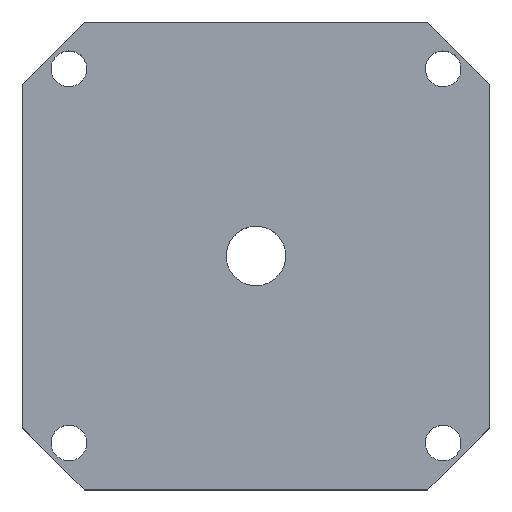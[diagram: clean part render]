
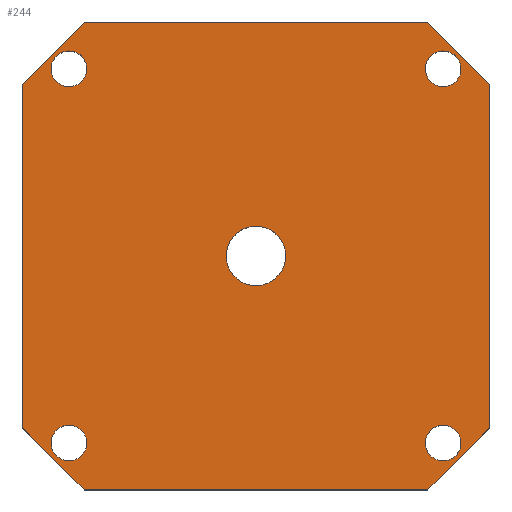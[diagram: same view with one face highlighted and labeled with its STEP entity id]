
A CAD part, top view. The second image highlights one B-rep face of the part: STEP entity #244.
In plain terms, the highlighted planar face has unit normal (0, 0, 1).
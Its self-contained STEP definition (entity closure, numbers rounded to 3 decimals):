
#63=CARTESIAN_POINT('Vertex',(-2.922,1.593,10.)) ;
#77=CARTESIAN_POINT('Vertex',(2.912,-1.593,10.)) ;
#80=CARTESIAN_POINT('Axis2P3D Location',(-0.005,0.,10.)) ;
#92=CARTESIAN_POINT('Axis2P3D Location',(0.,0.,10.)) ;
#97=CARTESIAN_POINT('Line Origine',(-22.681,22.685,10.)) ;
#101=CARTESIAN_POINT('Vertex',(-19.211,26.155,10.)) ;
#103=CARTESIAN_POINT('Vertex',(-26.15,19.216,10.)) ;
#106=CARTESIAN_POINT('Line Origine',(-26.15,-0.005,10.)) ;
#110=CARTESIAN_POINT('Vertex',(-26.15,-19.226,10.)) ;
#113=CARTESIAN_POINT('Line Origine',(-22.686,-22.69,10.)) ;
#117=CARTESIAN_POINT('Vertex',(-19.221,-26.155,10.)) ;
#120=CARTESIAN_POINT('Line Origine',(0.,-26.155,10.)) ;
#124=CARTESIAN_POINT('Vertex',(19.221,-26.155,10.)) ;
#127=CARTESIAN_POINT('Line Origine',(22.686,-22.69,10.)) ;
#131=CARTESIAN_POINT('Vertex',(26.15,-19.226,10.)) ;
#134=CARTESIAN_POINT('Line Origine',(26.15,-0.005,10.)) ;
#138=CARTESIAN_POINT('Vertex',(26.15,19.216,10.)) ;
#141=CARTESIAN_POINT('Line Origine',(22.681,22.685,10.)) ;
#145=CARTESIAN_POINT('Vertex',(19.211,26.155,10.)) ;
#148=CARTESIAN_POINT('Line Origine',(0.,26.155,10.)) ;
#163=CARTESIAN_POINT('Axis2P3D Location',(-0.005,0.,10.)) ;
#172=CARTESIAN_POINT('Axis2P3D Location',(-20.915,20.915,10.)) ;
#176=CARTESIAN_POINT('Vertex',(-22.67,21.874,10.)) ;
#178=CARTESIAN_POINT('Vertex',(-19.16,19.956,10.)) ;
#181=CARTESIAN_POINT('Axis2P3D Location',(-20.915,20.915,10.)) ;
#190=CARTESIAN_POINT('Axis2P3D Location',(-20.915,-20.921,10.)) ;
#194=CARTESIAN_POINT('Vertex',(-19.16,-21.88,10.)) ;
#196=CARTESIAN_POINT('Vertex',(-22.67,-19.962,10.)) ;
#199=CARTESIAN_POINT('Axis2P3D Location',(-20.915,-20.921,10.)) ;
#208=CARTESIAN_POINT('Axis2P3D Location',(20.921,20.915,10.)) ;
#212=CARTESIAN_POINT('Vertex',(22.676,19.956,10.)) ;
#214=CARTESIAN_POINT('Vertex',(19.166,21.874,10.)) ;
#217=CARTESIAN_POINT('Axis2P3D Location',(20.921,20.915,10.)) ;
#226=CARTESIAN_POINT('Axis2P3D Location',(20.921,-20.921,10.)) ;
#230=CARTESIAN_POINT('Vertex',(22.676,-21.88,10.)) ;
#232=CARTESIAN_POINT('Vertex',(19.166,-19.962,10.)) ;
#235=CARTESIAN_POINT('Axis2P3D Location',(20.921,-20.921,10.)) ;
#81=DIRECTION('Axis2P3D Direction',(0.,-0.,-1.)) ;
#93=DIRECTION('Axis2P3D Direction',(0.,0.,1.)) ;
#94=DIRECTION('Axis2P3D XDirection',(1.,0.,0.)) ;
#98=DIRECTION('Vector Direction',(0.707,0.707,0.)) ;
#107=DIRECTION('Vector Direction',(0.,1.,0.)) ;
#114=DIRECTION('Vector Direction',(-0.707,0.707,0.)) ;
#121=DIRECTION('Vector Direction',(-1.,0.,0.)) ;
#128=DIRECTION('Vector Direction',(-0.707,-0.707,0.)) ;
#135=DIRECTION('Vector Direction',(0.,-1.,0.)) ;
#142=DIRECTION('Vector Direction',(0.707,-0.707,0.)) ;
#149=DIRECTION('Vector Direction',(1.,0.,0.)) ;
#164=DIRECTION('Axis2P3D Direction',(0.,0.,1.)) ;
#173=DIRECTION('Axis2P3D Direction',(0.,0.,1.)) ;
#182=DIRECTION('Axis2P3D Direction',(0.,0.,1.)) ;
#191=DIRECTION('Axis2P3D Direction',(0.,0.,1.)) ;
#200=DIRECTION('Axis2P3D Direction',(0.,0.,1.)) ;
#209=DIRECTION('Axis2P3D Direction',(0.,0.,1.)) ;
#218=DIRECTION('Axis2P3D Direction',(0.,0.,1.)) ;
#227=DIRECTION('Axis2P3D Direction',(0.,0.,1.)) ;
#236=DIRECTION('Axis2P3D Direction',(0.,0.,1.)) ;
#82=AXIS2_PLACEMENT_3D('Circle Axis2P3D',#80,#81,$) ;
#95=AXIS2_PLACEMENT_3D('Plane Axis2P3D',#92,#93,#94) ;
#165=AXIS2_PLACEMENT_3D('Circle Axis2P3D',#163,#164,$) ;
#174=AXIS2_PLACEMENT_3D('Circle Axis2P3D',#172,#173,$) ;
#183=AXIS2_PLACEMENT_3D('Circle Axis2P3D',#181,#182,$) ;
#192=AXIS2_PLACEMENT_3D('Circle Axis2P3D',#190,#191,$) ;
#201=AXIS2_PLACEMENT_3D('Circle Axis2P3D',#199,#200,$) ;
#210=AXIS2_PLACEMENT_3D('Circle Axis2P3D',#208,#209,$) ;
#219=AXIS2_PLACEMENT_3D('Circle Axis2P3D',#217,#218,$) ;
#228=AXIS2_PLACEMENT_3D('Circle Axis2P3D',#226,#227,$) ;
#237=AXIS2_PLACEMENT_3D('Circle Axis2P3D',#235,#236,$) ;
#154=ORIENTED_EDGE('',*,*,#105,.T.) ;
#155=ORIENTED_EDGE('',*,*,#112,.T.) ;
#156=ORIENTED_EDGE('',*,*,#119,.T.) ;
#157=ORIENTED_EDGE('',*,*,#126,.T.) ;
#158=ORIENTED_EDGE('',*,*,#133,.T.) ;
#159=ORIENTED_EDGE('',*,*,#140,.T.) ;
#160=ORIENTED_EDGE('',*,*,#147,.T.) ;
#161=ORIENTED_EDGE('',*,*,#152,.T.) ;
#169=ORIENTED_EDGE('',*,*,#167,.F.) ;
#170=ORIENTED_EDGE('',*,*,#84,.F.) ;
#187=ORIENTED_EDGE('',*,*,#180,.F.) ;
#188=ORIENTED_EDGE('',*,*,#185,.F.) ;
#205=ORIENTED_EDGE('',*,*,#198,.F.) ;
#206=ORIENTED_EDGE('',*,*,#203,.F.) ;
#223=ORIENTED_EDGE('',*,*,#216,.F.) ;
#224=ORIENTED_EDGE('',*,*,#221,.F.) ;
#241=ORIENTED_EDGE('',*,*,#234,.F.) ;
#242=ORIENTED_EDGE('',*,*,#239,.F.) ;
#171=FACE_BOUND('',#168,.T.) ;
#189=FACE_BOUND('',#186,.T.) ;
#207=FACE_BOUND('',#204,.T.) ;
#225=FACE_BOUND('',#222,.T.) ;
#243=FACE_BOUND('',#240,.T.) ;
#99=VECTOR('Line Direction',#98,1.) ;
#108=VECTOR('Line Direction',#107,1.) ;
#115=VECTOR('Line Direction',#114,1.) ;
#122=VECTOR('Line Direction',#121,1.) ;
#129=VECTOR('Line Direction',#128,1.) ;
#136=VECTOR('Line Direction',#135,1.) ;
#143=VECTOR('Line Direction',#142,1.) ;
#150=VECTOR('Line Direction',#149,1.) ;
#244=ADVANCED_FACE('Corps principal',(#162,#171,#189,#207,#225,#243),#96,.T.) ;
#83=CIRCLE('generated circle',#82,3.324) ;
#166=CIRCLE('generated circle',#165,3.324) ;
#175=CIRCLE('generated circle',#174,2.) ;
#184=CIRCLE('generated circle',#183,2.) ;
#193=CIRCLE('generated circle',#192,2.) ;
#202=CIRCLE('generated circle',#201,2.) ;
#211=CIRCLE('generated circle',#210,2.) ;
#220=CIRCLE('generated circle',#219,2.) ;
#229=CIRCLE('generated circle',#228,2.) ;
#238=CIRCLE('generated circle',#237,2.) ;
#84=EDGE_CURVE('',#78,#64,#83,.F.) ;
#105=EDGE_CURVE('',#102,#104,#100,.F.) ;
#112=EDGE_CURVE('',#104,#111,#109,.F.) ;
#119=EDGE_CURVE('',#111,#118,#116,.F.) ;
#126=EDGE_CURVE('',#118,#125,#123,.F.) ;
#133=EDGE_CURVE('',#125,#132,#130,.F.) ;
#140=EDGE_CURVE('',#132,#139,#137,.F.) ;
#147=EDGE_CURVE('',#139,#146,#144,.F.) ;
#152=EDGE_CURVE('',#146,#102,#151,.F.) ;
#167=EDGE_CURVE('',#64,#78,#166,.T.) ;
#180=EDGE_CURVE('',#177,#179,#175,.T.) ;
#185=EDGE_CURVE('',#179,#177,#184,.T.) ;
#198=EDGE_CURVE('',#195,#197,#193,.T.) ;
#203=EDGE_CURVE('',#197,#195,#202,.T.) ;
#216=EDGE_CURVE('',#213,#215,#211,.T.) ;
#221=EDGE_CURVE('',#215,#213,#220,.T.) ;
#234=EDGE_CURVE('',#231,#233,#229,.T.) ;
#239=EDGE_CURVE('',#233,#231,#238,.T.) ;
#153=EDGE_LOOP('',(#154,#155,#156,#157,#158,#159,#160,#161)) ;
#168=EDGE_LOOP('',(#169,#170)) ;
#186=EDGE_LOOP('',(#187,#188)) ;
#204=EDGE_LOOP('',(#205,#206)) ;
#222=EDGE_LOOP('',(#223,#224)) ;
#240=EDGE_LOOP('',(#241,#242)) ;
#162=FACE_OUTER_BOUND('',#153,.T.) ;
#100=LINE('Line',#97,#99) ;
#109=LINE('Line',#106,#108) ;
#116=LINE('Line',#113,#115) ;
#123=LINE('Line',#120,#122) ;
#130=LINE('Line',#127,#129) ;
#137=LINE('Line',#134,#136) ;
#144=LINE('Line',#141,#143) ;
#151=LINE('Line',#148,#150) ;
#96=PLANE('Plane',#95) ;
#64=VERTEX_POINT('',#63) ;
#78=VERTEX_POINT('',#77) ;
#102=VERTEX_POINT('',#101) ;
#104=VERTEX_POINT('',#103) ;
#111=VERTEX_POINT('',#110) ;
#118=VERTEX_POINT('',#117) ;
#125=VERTEX_POINT('',#124) ;
#132=VERTEX_POINT('',#131) ;
#139=VERTEX_POINT('',#138) ;
#146=VERTEX_POINT('',#145) ;
#177=VERTEX_POINT('',#176) ;
#179=VERTEX_POINT('',#178) ;
#195=VERTEX_POINT('',#194) ;
#197=VERTEX_POINT('',#196) ;
#213=VERTEX_POINT('',#212) ;
#215=VERTEX_POINT('',#214) ;
#231=VERTEX_POINT('',#230) ;
#233=VERTEX_POINT('',#232) ;
